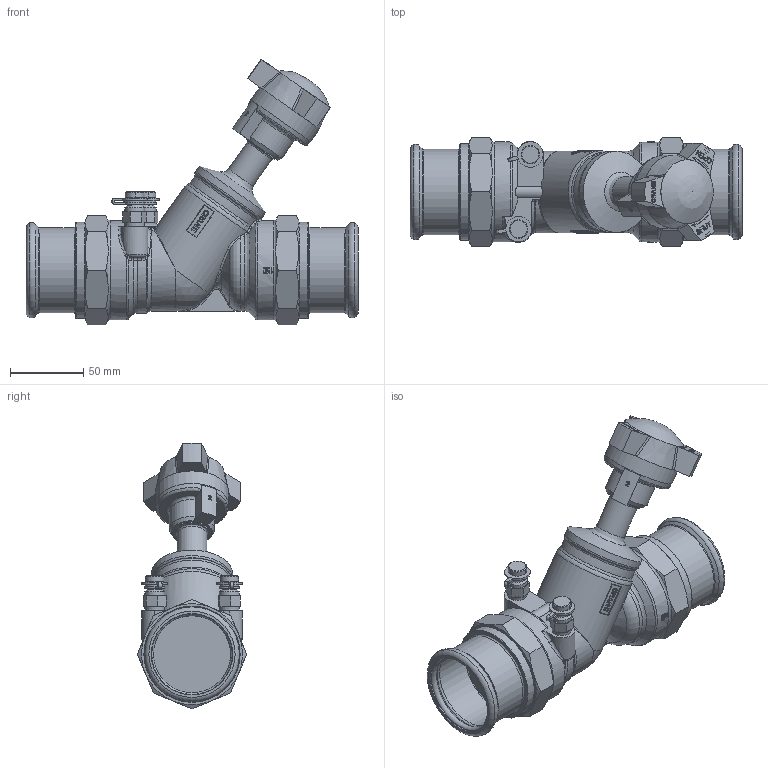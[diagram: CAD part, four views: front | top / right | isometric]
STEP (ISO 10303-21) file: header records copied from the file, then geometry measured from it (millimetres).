
FILE_DESCRIPTION((''),'2;1');
FILE_NAME('P:\Fastrack\53972_CRANE 3D\Push Fit\D931\D931-PF_54mm\D931-PF_54mm.stp','2011-08-24T11:47:25',('btaylor'),(''),'Autodesk Inventor 2008','Autodesk Inventor 2008','');
FILE_SCHEMA(('AUTOMOTIVE_DESIGN { 1 0 10303 214 1 1 1 1 }'));
Length unit declared in the file: millimetre
Products named in the file (1): D931-PF_54mm
Bounding box: 227 x 74.69 x 181.67 mm (x, y, z)
Volume: 640370.1 mm3; surface area: 107972.1 mm2
Topology: 1 solids, 3 shells, 1327 faces, 3641 edges, 2382 vertices
Faces by surface type: bspline 797, plane 362, cylinder 88, cone 60, torus 18, sphere 2
Full cylindrical faces by diameter (mm): 7.4 x2, 11 x2, 12.7 x2, 13.7 x2, 20.5 x1, 50 x1, 54.35 x2, 55 x2, 55.5 x1, 58.4 x2, 65.8 x2, 68 x2
Entity records: 166626 total; most frequent: CARTESIAN_POINT 138857, ORIENTED_EDGE 7088, EDGE_CURVE 3544, DIRECTION 3210, VERTEX_POINT 2357, B_SPLINE_CURVE_WITH_KNOTS 1578, EDGE_LOOP 1463, VECTOR 1440
